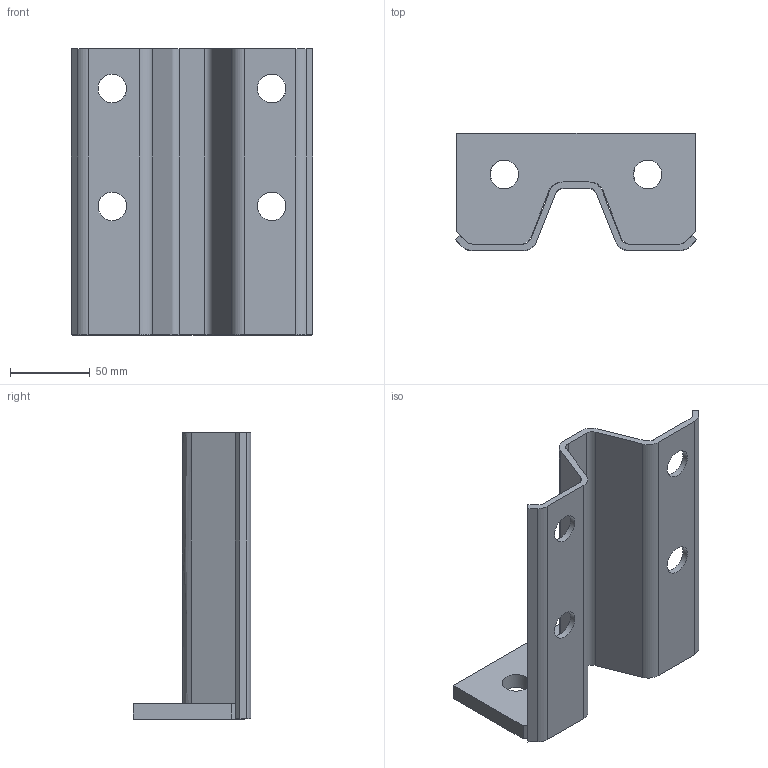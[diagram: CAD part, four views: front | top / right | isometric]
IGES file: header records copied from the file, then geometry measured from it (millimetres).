
Global section: file name: B225W90; native system: Autodesk RealDWG; preprocessor: Autodesk Translation Framework DWG producer (atf_dwg_producer); organization: unknown; date: 20230703.111144; units: centimetre
Bounding box: 151.72 x 74 x 180 mm (x, y, z)
Volume: 222527.3 mm3; surface area: 95248.8 mm2
Topology: 1 solids, 1 shells, 54 faces, 164 edges, 108 vertices
Faces by surface type: bspline 54
